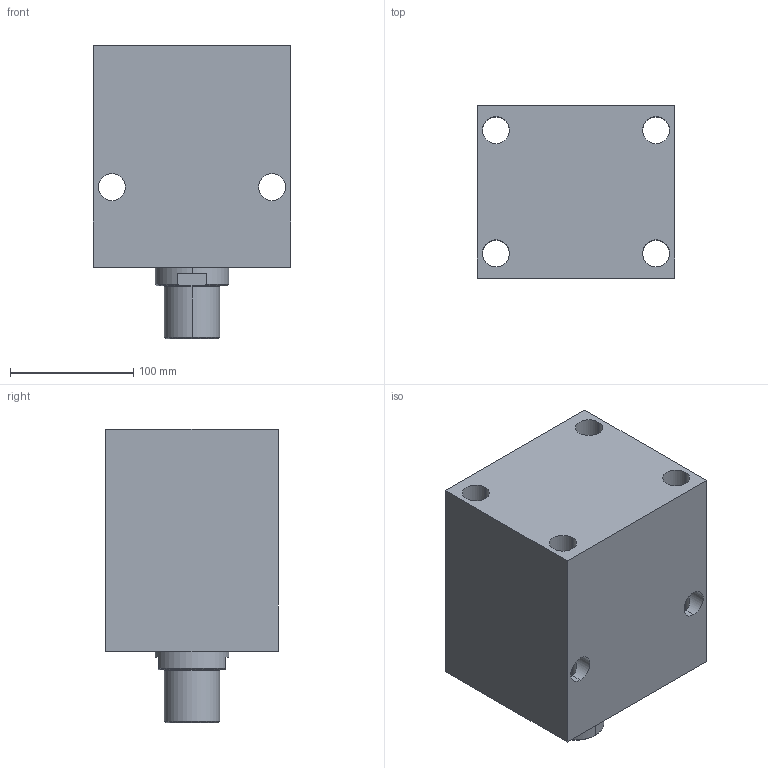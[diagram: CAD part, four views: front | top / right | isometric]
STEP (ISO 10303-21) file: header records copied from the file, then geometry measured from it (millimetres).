
FILE_DESCRIPTION (( 'STEP AP203' ), '1' );
FILE_NAME ('Block cylinder B01C-910M.STEP', '2022-07-09T18:19:50', ( '' ), ( '' ), 'SwSTEP 2.0', 'SolidWorks 2017', '' );
FILE_SCHEMA (( 'CONFIG_CONTROL_DESIGN' ));
Length unit declared in the file: millimetre
Products named in the file (3): Body_ 910M_50ST; Piston _910M; Block cylinder B01C-910M
Assembly tree (2 placements, depth 2):
  Block cylinder B01C-910M
    Body_ 910M_50ST
    Piston _910M
Bounding box: 160 x 140 x 238 mm (x, y, z)
Volume: 4092612.4 mm3; surface area: 273746.3 mm2
Topology: 2 solids, 2 shells, 356 faces, 969 edges, 634 vertices
Faces by surface type: bspline 156, plane 146, cylinder 46, cone 8
Entity records: 17838 total; most frequent: CARTESIAN_POINT 9656, ORIENTED_EDGE 1930, DIRECTION 1095, EDGE_CURVE 965, VERTEX_POINT 634, LINE 549, VECTOR 549, EDGE_LOOP 397
